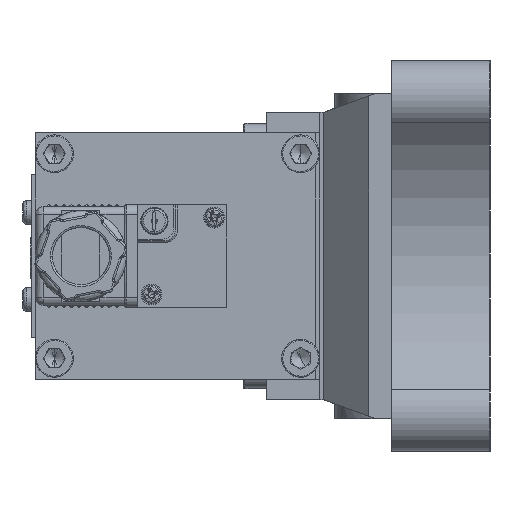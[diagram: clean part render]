
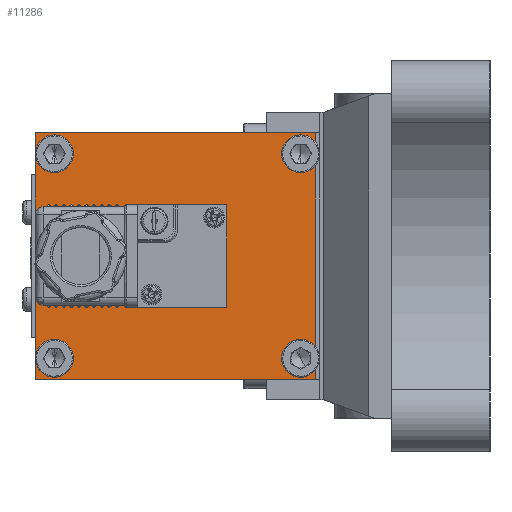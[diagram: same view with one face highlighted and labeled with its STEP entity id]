
A CAD part, left-side view. The second image highlights one B-rep face of the part: STEP entity #11286.
In plain terms, the highlighted planar face has unit normal (-1, 0, 0) as drawn and (1, 0, 0) by its records, which use the part's own axes.
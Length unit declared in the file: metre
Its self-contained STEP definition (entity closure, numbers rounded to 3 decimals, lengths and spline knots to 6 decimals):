
#170 = CARTESIAN_POINT ( 'NONE',  ( 0.08, 0.039, -0.0325 ) ) ;
#294 = AXIS2_PLACEMENT_3D ( 'NONE', #24143, #20644, #20751 ) ;
#599 = CARTESIAN_POINT ( 'NONE',  ( 0.08, 0.071, 0.03 ) ) ;
#1589 = CIRCLE ( 'NONE', #4693, 0.003 ) ;
#1611 = AXIS2_PLACEMENT_3D ( 'NONE', #26198, #12415, #28511 ) ;
#1783 = CARTESIAN_POINT ( 'NONE',  ( 0.08, 0.002, 0. ) ) ;
#2332 = DIRECTION ( 'NONE',  ( 0., 0., -1. ) ) ;
#2561 = CIRCLE ( 'NONE', #11967, 0.003 ) ;
#2679 = CARTESIAN_POINT ( 'NONE',  ( 0.08, 0.002, -0.0325 ) ) ;
#3058 = EDGE_LOOP ( 'NONE', ( #13227, #11362, #6729, #4844 ) ) ;
#3366 = CARTESIAN_POINT ( 'NONE',  ( 0.08, 0.076, -0.0325 ) ) ;
#3369 = CIRCLE ( 'NONE', #12903, 0.003 ) ;
#3567 = VERTEX_POINT ( 'NONE', #27382 ) ;
#3670 = VERTEX_POINT ( 'NONE', #17251 ) ;
#3797 = CIRCLE ( 'NONE', #1611, 0.003 ) ;
#4042 = VERTEX_POINT ( 'NONE', #24632 ) ;
#4203 = LINE ( 'NONE', #4651, #28017 ) ;
#4651 = CARTESIAN_POINT ( 'NONE',  ( 0.08, 0.076, 0. ) ) ;
#4693 = AXIS2_PLACEMENT_3D ( 'NONE', #11426, #27512, #13743 ) ;
#4781 = VERTEX_POINT ( 'NONE', #2679 ) ;
#4844 = ORIENTED_EDGE ( 'NONE', *, *, #9866, .F. ) ;
#5022 = PLANE ( 'NONE',  #6118 ) ;
#5500 = EDGE_CURVE ( 'NONE', #15563, #20983, #20187, .T. ) ;
#6118 = AXIS2_PLACEMENT_3D ( 'NONE', #21076, #9687, #25765 ) ;
#6435 = DIRECTION ( 'NONE',  ( 1., 0., 0. ) ) ;
#6472 = EDGE_CURVE ( 'NONE', #3670, #4042, #15085, .T. ) ;
#6627 = VERTEX_POINT ( 'NONE', #23151 ) ;
#6729 = ORIENTED_EDGE ( 'NONE', *, *, #26448, .F. ) ;
#6895 = EDGE_LOOP ( 'NONE', ( #20485, #9584 ) ) ;
#7122 = EDGE_CURVE ( 'NONE', #6627, #10615, #4203, .T. ) ;
#7354 = FACE_OUTER_BOUND ( 'NONE', #3058, .T. ) ;
#7713 = CARTESIAN_POINT ( 'NONE',  ( 0.08, 0.006, 0.03 ) ) ;
#7884 = AXIS2_PLACEMENT_3D ( 'NONE', #28872, #28966, #29031 ) ;
#8319 = EDGE_CURVE ( 'NONE', #20983, #15563, #3797, .T. ) ;
#8396 = CARTESIAN_POINT ( 'NONE',  ( 0.08, 0.039, 0.0325 ) ) ;
#8500 = EDGE_CURVE ( 'NONE', #9757, #3567, #22547, .T. ) ;
#8586 = DIRECTION ( 'NONE',  ( 1., 0., 0. ) ) ;
#8795 = ORIENTED_EDGE ( 'NONE', *, *, #8319, .F. ) ;
#9566 = CARTESIAN_POINT ( 'NONE',  ( 0.08, 0.006, 0.027 ) ) ;
#9584 = ORIENTED_EDGE ( 'NONE', *, *, #6472, .F. ) ;
#9687 = DIRECTION ( 'NONE',  ( -1., 0., 0. ) ) ;
#9757 = VERTEX_POINT ( 'NONE', #15931 ) ;
#9866 = EDGE_CURVE ( 'NONE', #10615, #4781, #26093, .T. ) ;
#10062 = LINE ( 'NONE', #8396, #28418 ) ;
#10615 = VERTEX_POINT ( 'NONE', #3366 ) ;
#10655 = CARTESIAN_POINT ( 'NONE',  ( 0.08, 0.002, 0.0325 ) ) ;
#11158 = EDGE_CURVE ( 'NONE', #4042, #3670, #3369, .T. ) ;
#11286 = ADVANCED_FACE ( 'NONE', ( #19616, #13490, #25723, #14204, #7354 ), #5022, .F. ) ;
#11362 = ORIENTED_EDGE ( 'NONE', *, *, #27847, .F. ) ;
#11397 = DIRECTION ( 'NONE',  ( 1., 0., 0. ) ) ;
#11426 = CARTESIAN_POINT ( 'NONE',  ( 0.08, 0.006, 0.027 ) ) ;
#11601 = ORIENTED_EDGE ( 'NONE', *, *, #5500, .F. ) ;
#11869 = DIRECTION ( 'NONE',  ( 0., 0., -1. ) ) ;
#11967 = AXIS2_PLACEMENT_3D ( 'NONE', #22372, #8586, #24669 ) ;
#12033 = VERTEX_POINT ( 'NONE', #7713 ) ;
#12061 = VERTEX_POINT ( 'NONE', #19397 ) ;
#12250 = ORIENTED_EDGE ( 'NONE', *, *, #18448, .F. ) ;
#12415 = DIRECTION ( 'NONE',  ( 1., 0., 0. ) ) ;
#12903 = AXIS2_PLACEMENT_3D ( 'NONE', #25169, #11397, #27483 ) ;
#13227 = ORIENTED_EDGE ( 'NONE', *, *, #7122, .F. ) ;
#13490 = FACE_BOUND ( 'NONE', #6895, .T. ) ;
#13743 = DIRECTION ( 'NONE',  ( 0., 0., -1. ) ) ;
#13781 = ORIENTED_EDGE ( 'NONE', *, *, #22847, .F. ) ;
#14018 = DIRECTION ( 'NONE',  ( 0., -1., 0. ) ) ;
#14204 = FACE_BOUND ( 'NONE', #23132, .T. ) ;
#15085 = CIRCLE ( 'NONE', #7884, 0.003 ) ;
#15525 = DIRECTION ( 'NONE',  ( 0., 0., 1. ) ) ;
#15563 = VERTEX_POINT ( 'NONE', #28350 ) ;
#15931 = CARTESIAN_POINT ( 'NONE',  ( 0.08, 0.006, -0.03 ) ) ;
#16242 = LINE ( 'NONE', #1783, #28471 ) ;
#16572 = EDGE_LOOP ( 'NONE', ( #11601, #8795 ) ) ;
#17251 = CARTESIAN_POINT ( 'NONE',  ( 0.08, 0.071, -0.024 ) ) ;
#18211 = EDGE_LOOP ( 'NONE', ( #12250, #28926 ) ) ;
#18448 = EDGE_CURVE ( 'NONE', #12061, #12033, #1589, .T. ) ;
#19397 = CARTESIAN_POINT ( 'NONE',  ( 0.08, 0.006, 0.024 ) ) ;
#19616 = FACE_BOUND ( 'NONE', #16572, .T. ) ;
#20002 = VECTOR ( 'NONE', #14018, 1. ) ;
#20187 = CIRCLE ( 'NONE', #294, 0.003 ) ;
#20277 = CARTESIAN_POINT ( 'NONE',  ( 0.08, 0.006, -0.027 ) ) ;
#20485 = ORIENTED_EDGE ( 'NONE', *, *, #11158, .F. ) ;
#20644 = DIRECTION ( 'NONE',  ( 1., 0., 0. ) ) ;
#20751 = DIRECTION ( 'NONE',  ( 0., 0., -1. ) ) ;
#20983 = VERTEX_POINT ( 'NONE', #599 ) ;
#21076 = CARTESIAN_POINT ( 'NONE',  ( 0.08, 0.002, -0.0325 ) ) ;
#21716 = AXIS2_PLACEMENT_3D ( 'NONE', #20277, #6435, #22553 ) ;
#22042 = ORIENTED_EDGE ( 'NONE', *, *, #8500, .F. ) ;
#22372 = CARTESIAN_POINT ( 'NONE',  ( 0.08, 0.006, -0.027 ) ) ;
#22547 = CIRCLE ( 'NONE', #21716, 0.003 ) ;
#22553 = DIRECTION ( 'NONE',  ( 0., 0., -1. ) ) ;
#22589 = AXIS2_PLACEMENT_3D ( 'NONE', #9566, #25647, #11869 ) ;
#22847 = EDGE_CURVE ( 'NONE', #3567, #9757, #2561, .T. ) ;
#23132 = EDGE_LOOP ( 'NONE', ( #22042, #13781 ) ) ;
#23151 = CARTESIAN_POINT ( 'NONE',  ( 0.08, 0.076, 0.0325 ) ) ;
#23835 = CIRCLE ( 'NONE', #22589, 0.003 ) ;
#23873 = EDGE_CURVE ( 'NONE', #12033, #12061, #23835, .T. ) ;
#24143 = CARTESIAN_POINT ( 'NONE',  ( 0.08, 0.071, 0.027 ) ) ;
#24483 = DIRECTION ( 'NONE',  ( 0., 1., 0. ) ) ;
#24632 = CARTESIAN_POINT ( 'NONE',  ( 0.08, 0.071, -0.03 ) ) ;
#24669 = DIRECTION ( 'NONE',  ( 0., 0., -1. ) ) ;
#25169 = CARTESIAN_POINT ( 'NONE',  ( 0.08, 0.071, -0.027 ) ) ;
#25647 = DIRECTION ( 'NONE',  ( 1., 0., 0. ) ) ;
#25723 = FACE_BOUND ( 'NONE', #18211, .T. ) ;
#25765 = DIRECTION ( 'NONE',  ( 0., 0., 1. ) ) ;
#26093 = LINE ( 'NONE', #170, #20002 ) ;
#26198 = CARTESIAN_POINT ( 'NONE',  ( 0.08, 0.071, 0.027 ) ) ;
#26448 = EDGE_CURVE ( 'NONE', #4781, #28957, #16242, .T. ) ;
#27382 = CARTESIAN_POINT ( 'NONE',  ( 0.08, 0.006, -0.024 ) ) ;
#27483 = DIRECTION ( 'NONE',  ( 0., 0., -1. ) ) ;
#27512 = DIRECTION ( 'NONE',  ( 1., 0., 0. ) ) ;
#27847 = EDGE_CURVE ( 'NONE', #28957, #6627, #10062, .T. ) ;
#28017 = VECTOR ( 'NONE', #2332, 1. ) ;
#28350 = CARTESIAN_POINT ( 'NONE',  ( 0.08, 0.071, 0.024 ) ) ;
#28418 = VECTOR ( 'NONE', #24483, 1. ) ;
#28471 = VECTOR ( 'NONE', #15525, 1. ) ;
#28511 = DIRECTION ( 'NONE',  ( 0., 0., -1. ) ) ;
#28872 = CARTESIAN_POINT ( 'NONE',  ( 0.08, 0.071, -0.027 ) ) ;
#28926 = ORIENTED_EDGE ( 'NONE', *, *, #23873, .F. ) ;
#28957 = VERTEX_POINT ( 'NONE', #10655 ) ;
#28966 = DIRECTION ( 'NONE',  ( 1., 0., 0. ) ) ;
#29031 = DIRECTION ( 'NONE',  ( 0., 0., -1. ) ) ;
